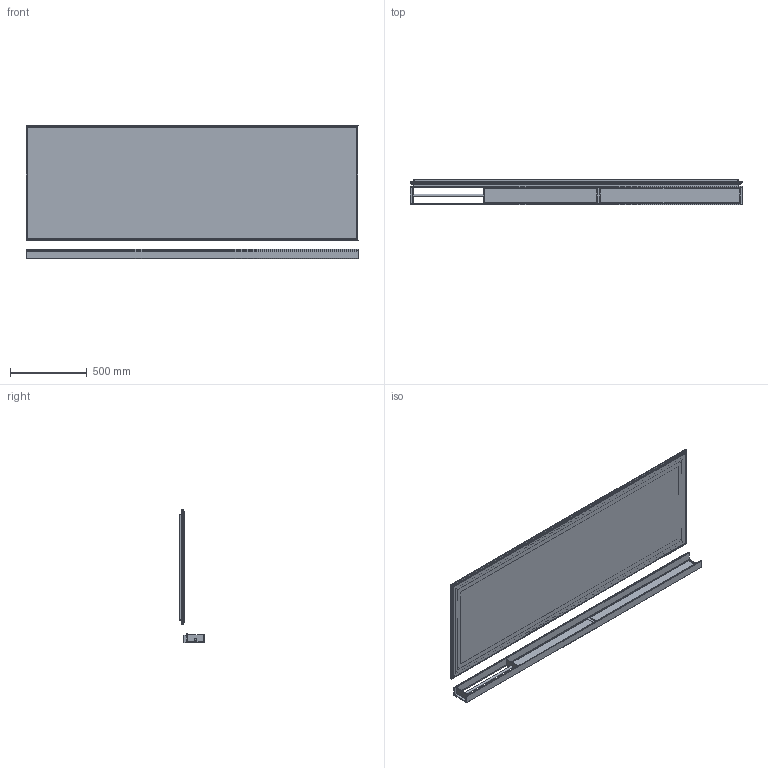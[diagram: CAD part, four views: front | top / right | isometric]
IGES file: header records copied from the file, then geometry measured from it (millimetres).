
Start section: Data from Parasolid IGES Translator 22.0.50, Copyright(c) 2006 Siemens P LM Software. All Rights Reserved.
Global section: file name: noorth-mirror-H 75 D 3,3-13 W 216_5272.igs; native system: By Siemens PLM Incorporated; preprocessor: XPlus GENERIC/IGES 22.0.50; author: Noname; organization: Noname; date: 20250803.155740; units: metre
Bounding box: 2160 x 164.5 x 866 mm (x, y, z)
Volume: 11920437.5 mm3; surface area: 6272190.9 mm2
Topology: 12 solids, 12 shells, 486 faces, 1349 edges, 886 vertices
Faces by surface type: plane 337, cylinder 79, extrusion 62, bspline 8
Full cylindrical faces by diameter (mm): 16.004 x1
